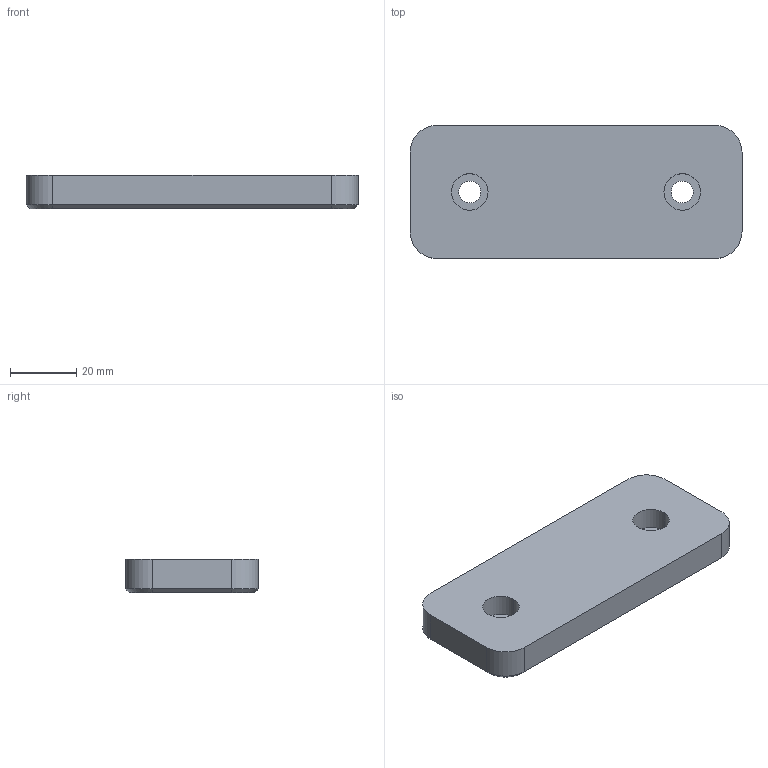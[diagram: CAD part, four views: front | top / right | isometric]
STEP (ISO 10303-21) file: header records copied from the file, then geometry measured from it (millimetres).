
FILE_DESCRIPTION (( 'STEP AP214' ), '1' );
FILE_NAME ('F2680_04010010.STEP', '2024-09-10T07:33:23', ( '' ), ( '' ), 'SwSTEP 2.0', 'SolidWorks 2014', '' );
FILE_SCHEMA (( 'AUTOMOTIVE_DESIGN' ));
Length unit declared in the file: millimetre
Products named in the file (1): F2680_04010010
Bounding box: 100 x 40 x 10.1 mm (x, y, z)
Volume: 38161.3 mm3; surface area: 10854.8 mm2
Topology: 1 solids, 1 shells, 28 faces, 64 edges, 40 vertices
Faces by surface type: cylinder 12, plane 12, cone 4
Entity records: 834 total; most frequent: DIRECTION 150, CARTESIAN_POINT 133, ORIENTED_EDGE 128, EDGE_CURVE 64, AXIS2_PLACEMENT_3D 57, VERTEX_POINT 40, VECTOR 36, LINE 36
